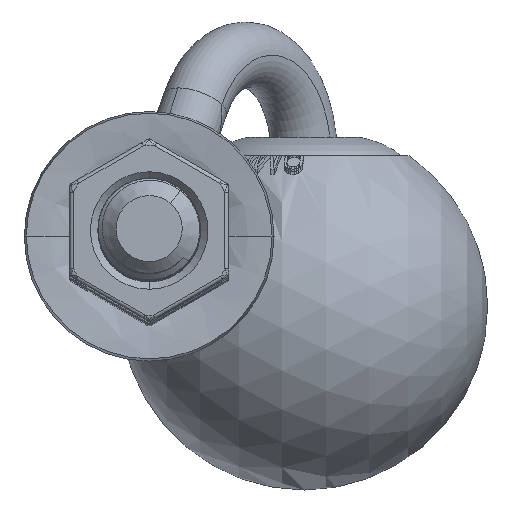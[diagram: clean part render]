
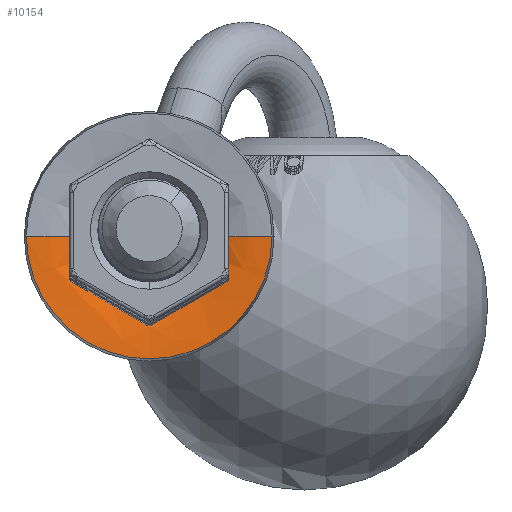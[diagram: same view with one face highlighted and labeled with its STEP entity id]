
A CAD part, top view. The second image highlights one B-rep face of the part: STEP entity #10154.
In plain terms, the highlighted free-form (B-spline) face has degree [3, 3] with [7, 4] control points.
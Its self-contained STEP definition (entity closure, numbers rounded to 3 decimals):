
#9937=CARTESIAN_POINT('',(0.,0.,0.002));
#9938=DIRECTION('',(0.,0.,1.));
#9939=DIRECTION('',(0.,1.,0.));
#9940=AXIS2_PLACEMENT_3D('',#9937,#9938,#9939);
#9942=CARTESIAN_POINT('',(0.,0.,4.));
#9943=DIRECTION('',(0.,0.,1.));
#9944=DIRECTION('',(0.,1.,0.));
#9945=AXIS2_PLACEMENT_3D('',#9942,#9943,#9944);
#9952=CARTESIAN_POINT('',(0.,17.,21.531));
#9953=DIRECTION('',(1.,0.,0.));
#9954=DIRECTION('',(0.,-0.581,-0.814));
#9955=AXIS2_PLACEMENT_3D('',#9952,#9953,#9954);
#9962=CARTESIAN_POINT('',(0.,-17.,21.531));
#9963=DIRECTION('',(-1.,0.,0.));
#9964=DIRECTION('',(0.,0.581,-0.814));
#9965=AXIS2_PLACEMENT_3D('',#9962,#9963,#9964);
#9968=CARTESIAN_POINT('',(0.,4.5,4.));
#9970=VERTEX_POINT('',#9968);
#9972=CARTESIAN_POINT('',(0.,-4.5,4.));
#9974=VERTEX_POINT('',#9972);
#9979=CARTESIAN_POINT('',(0.,-16.724,0.002));
#9980=CARTESIAN_POINT('',(0.,16.724,0.002));
#9981=VERTEX_POINT('',#9979);
#9982=VERTEX_POINT('',#9980);
#10117=CARTESIAN_POINT('',(0.269,4.28,
4.153));
#10118=CARTESIAN_POINT('',(0.503,7.989,
1.434));
#10119=CARTESIAN_POINT('',(0.777,12.357,
0.003));
#10120=CARTESIAN_POINT('',(1.067,16.952,0.));
#10121=CARTESIAN_POINT('',(-2.365,4.445,
4.153));
#10122=CARTESIAN_POINT('',(-4.414,8.298,
1.434));
#10123=CARTESIAN_POINT('',(-6.827,12.835,
0.003));
#10124=CARTESIAN_POINT('',(-9.366,17.608,
0.));
#10125=CARTESIAN_POINT('',(-4.288,2.639,
4.153));
#10126=CARTESIAN_POINT('',(-8.005,4.926,
1.434));
#10127=CARTESIAN_POINT('',(-12.381,7.619,
0.003));
#10128=CARTESIAN_POINT('',(-16.986,10.453,
0.));
#10129=CARTESIAN_POINT('',(-4.288,0.,4.153));
#10130=CARTESIAN_POINT('',(-8.005,0.,1.434));
#10131=CARTESIAN_POINT('',(-12.381,0.,0.003));
#10132=CARTESIAN_POINT('',(-16.986,0.,0.));
#10133=CARTESIAN_POINT('',(-4.288,-2.639,
4.153));
#10134=CARTESIAN_POINT('',(-8.005,-4.926,
1.434));
#10135=CARTESIAN_POINT('',(-12.381,-7.619,
0.003));
#10136=CARTESIAN_POINT('',(-16.986,-10.453,
0.));
#10137=CARTESIAN_POINT('',(-2.365,-4.445,
4.153));
#10138=CARTESIAN_POINT('',(-4.414,-8.298,
1.434));
#10139=CARTESIAN_POINT('',(-6.827,-12.835,
0.003));
#10140=CARTESIAN_POINT('',(-9.366,-17.608,
0.));
#10141=CARTESIAN_POINT('',(0.269,-4.28,
4.153));
#10142=CARTESIAN_POINT('',(0.503,-7.989,
1.434));
#10143=CARTESIAN_POINT('',(0.777,-12.357,
0.003));
#10144=CARTESIAN_POINT('',(1.067,-16.952,0.));
#10145=(BOUNDED_SURFACE()B_SPLINE_SURFACE(3,3,((#10117,#10118,#10119,#10120),(
#10121,#10122,#10123,#10124),(#10125,#10126,#10127,#10128),(#10129,#10130,
#10131,#10132),(#10133,#10134,#10135,#10136),(#10137,#10138,#10139,#10140),(
#10141,#10142,#10143,#10144)),.UNSPECIFIED.,.F.,.F.,.F.)B_SPLINE_SURFACE_WITH_KNOTS((4,3,4),(4,4),(0.,1.,2.),(0.,1.),.UNSPECIFIED.)GEOMETRIC_REPRESENTATION_ITEM()RATIONAL_B_SPLINE_SURFACE(((1.217,1.177,
1.177,1.217),(0.961,0.93,
0.93,0.961),(0.961,0.93,
0.93,0.961),(1.217,1.177,
1.177,1.217),(0.961,0.93,
0.93,0.961),(0.961,0.93,
0.93,0.961),(1.217,1.177,
1.177,1.217)))REPRESENTATION_ITEM('')SURFACE());
#10146=ORIENTED_EDGE('',*,*,#10075,.T.);
#10148=ORIENTED_EDGE('',*,*,#10147,.F.);
#10149=ORIENTED_EDGE('',*,*,#9990,.F.);
#10151=ORIENTED_EDGE('',*,*,#10150,.T.);
#10152=EDGE_LOOP('',(#10146,#10148,#10149,#10151));
#10153=FACE_OUTER_BOUND('',#10152,.F.);
#10154=ADVANCED_FACE('',(#10153),#10145,.T.);
#9941=CIRCLE('',#9940,16.724);
#9946=CIRCLE('',#9945,4.5);
#9956=CIRCLE('',#9955,21.531);
#9966=CIRCLE('',#9965,21.531);
#9990=EDGE_CURVE('',#9970,#9974,#9946,.T.);
#10075=EDGE_CURVE('',#9982,#9981,#9941,.T.);
#10147=EDGE_CURVE('',#9974,#9981,#9966,.T.);
#10150=EDGE_CURVE('',#9970,#9982,#9956,.T.);
